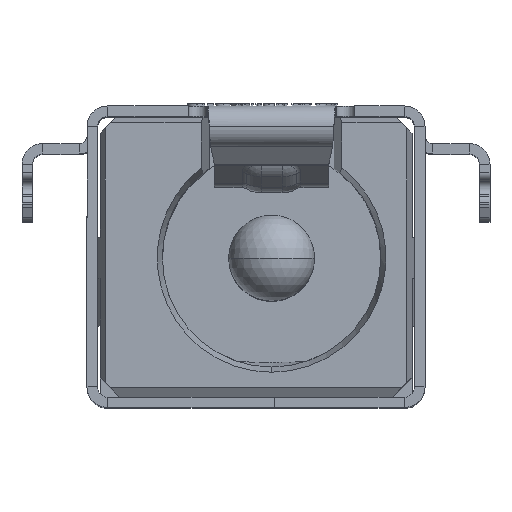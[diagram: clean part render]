
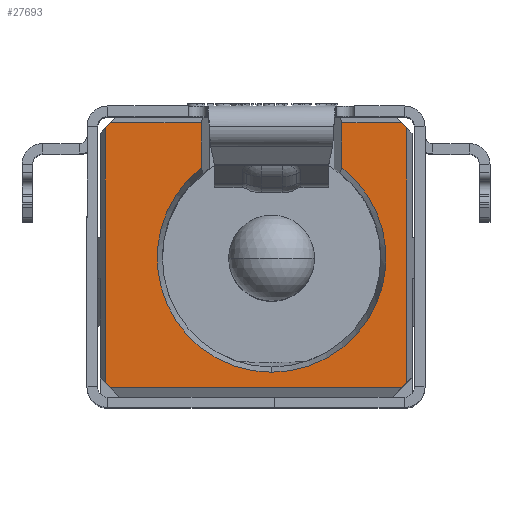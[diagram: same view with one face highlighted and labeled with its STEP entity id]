
A CAD part, top view. The second image highlights one B-rep face of the part: STEP entity #27693.
In plain terms, the highlighted planar face has unit normal (0, 0, 1).
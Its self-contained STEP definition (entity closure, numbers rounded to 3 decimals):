
#268 = CARTESIAN_POINT ( 'NONE',  ( 0., -2.2, 11. ) ) ;
#655 = ORIENTED_EDGE ( 'NONE', *, *, #29486, .T. ) ;
#740 = DIRECTION ( 'NONE',  ( 0., 1., 0. ) ) ;
#927 = EDGE_CURVE ( 'NONE', #1394, #31072, #27553, .T. ) ;
#1357 = VERTEX_POINT ( 'NONE', #5922 ) ;
#1394 = VERTEX_POINT ( 'NONE', #28485 ) ;
#1473 = LINE ( 'NONE', #6365, #15526 ) ;
#1722 = LINE ( 'NONE', #6766, #28752 ) ;
#1933 = LINE ( 'NONE', #14423, #7406 ) ;
#2070 = EDGE_CURVE ( 'NONE', #25029, #12180, #13667, .T. ) ;
#3245 = CIRCLE ( 'NONE', #20318, 2.2 ) ;
#3382 = CARTESIAN_POINT ( 'NONE',  ( -3.2, -2.4, 11. ) ) ;
#3475 = EDGE_CURVE ( 'NONE', #20369, #25312, #6152, .T. ) ;
#3895 = CARTESIAN_POINT ( 'NONE',  ( 2.6, -2.4, 11. ) ) ;
#3990 = DIRECTION ( 'NONE',  ( 0., 0., -1. ) ) ;
#4575 = CARTESIAN_POINT ( 'NONE',  ( 2.6, -2.4, 11. ) ) ;
#5486 = LINE ( 'NONE', #30477, #17560 ) ;
#5867 = DIRECTION ( 'NONE',  ( 0.614, 0.79, 0. ) ) ;
#5922 = CARTESIAN_POINT ( 'NONE',  ( 2.5, 2.6, 11. ) ) ;
#6152 = LINE ( 'NONE', #8873, #15695 ) ;
#6365 = CARTESIAN_POINT ( 'NONE',  ( 2.5, 2.6, 11. ) ) ;
#6559 = CARTESIAN_POINT ( 'NONE',  ( 2.6, -2.4, 11. ) ) ;
#6766 = CARTESIAN_POINT ( 'NONE',  ( -3.2, 2.5, 11. ) ) ;
#6771 = EDGE_CURVE ( 'NONE', #25029, #31072, #26824, .T. ) ;
#6965 = CARTESIAN_POINT ( 'NONE',  ( 0., 0., 11. ) ) ;
#6967 = DIRECTION ( 'NONE',  ( 0., 0., -1. ) ) ;
#7286 = PLANE ( 'NONE',  #19071 ) ;
#7330 = VERTEX_POINT ( 'NONE', #3382 ) ;
#7406 = VECTOR ( 'NONE', #24014, 1000. ) ;
#8032 = VERTEX_POINT ( 'NONE', #13150 ) ;
#8449 = CARTESIAN_POINT ( 'NONE',  ( 1.35, 2.6, 11. ) ) ;
#8569 = LINE ( 'NONE', #30974, #23070 ) ;
#8709 = AXIS2_PLACEMENT_3D ( 'NONE', #19252, #6967, #16842 ) ;
#8873 = CARTESIAN_POINT ( 'NONE',  ( -1.35, 2.6, 11. ) ) ;
#9550 = EDGE_CURVE ( 'NONE', #17579, #23077, #3245, .T. ) ;
#10462 = EDGE_CURVE ( 'NONE', #7330, #1394, #8569, .T. ) ;
#10678 = DIRECTION ( 'NONE',  ( 0.707, -0.707, 0. ) ) ;
#11765 = CARTESIAN_POINT ( 'NONE',  ( 1.35, 1.737, 11. ) ) ;
#11955 = DIRECTION ( 'NONE',  ( 0., 0., 1. ) ) ;
#12180 = VERTEX_POINT ( 'NONE', #18805 ) ;
#12438 = VECTOR ( 'NONE', #15891, 1000. ) ;
#12541 = VECTOR ( 'NONE', #27671, 1000. ) ;
#13150 = CARTESIAN_POINT ( 'NONE',  ( -3.2, 2.5, 11. ) ) ;
#13210 = VERTEX_POINT ( 'NONE', #8449 ) ;
#13667 = LINE ( 'NONE', #6559, #23023 ) ;
#14423 = CARTESIAN_POINT ( 'NONE',  ( -3.2, 2.5, 11. ) ) ;
#15193 = CARTESIAN_POINT ( 'NONE',  ( -3.1, -2.5, 11. ) ) ;
#15330 = CARTESIAN_POINT ( 'NONE',  ( -1.35, 2.6, 11. ) ) ;
#15481 = ORIENTED_EDGE ( 'NONE', *, *, #29248, .T. ) ;
#15526 = VECTOR ( 'NONE', #23559, 1000. ) ;
#15695 = VECTOR ( 'NONE', #21050, 1000. ) ;
#15891 = DIRECTION ( 'NONE',  ( 0., -1., 0. ) ) ;
#15951 = CIRCLE ( 'NONE', #8709, 2.2 ) ;
#15962 = ORIENTED_EDGE ( 'NONE', *, *, #20782, .F. ) ;
#16303 = CARTESIAN_POINT ( 'NONE',  ( 0., 0., 11. ) ) ;
#16441 = ORIENTED_EDGE ( 'NONE', *, *, #927, .T. ) ;
#16842 = DIRECTION ( 'NONE',  ( 0.614, 0.79, 0. ) ) ;
#17560 = VECTOR ( 'NONE', #18250, 1000. ) ;
#17579 = VERTEX_POINT ( 'NONE', #268 ) ;
#17722 = LINE ( 'NONE', #24905, #12541 ) ;
#17791 = ORIENTED_EDGE ( 'NONE', *, *, #17922, .T. ) ;
#17922 = EDGE_CURVE ( 'NONE', #12180, #1357, #17722, .T. ) ;
#18118 = ORIENTED_EDGE ( 'NONE', *, *, #28596, .F. ) ;
#18250 = DIRECTION ( 'NONE',  ( 0., -1., 0. ) ) ;
#18414 = EDGE_CURVE ( 'NONE', #8032, #7330, #1933, .T. ) ;
#18805 = CARTESIAN_POINT ( 'NONE',  ( 2.6, 2.5, 11. ) ) ;
#18990 = DIRECTION ( 'NONE',  ( -0.707, -0.707, 0. ) ) ;
#19071 = AXIS2_PLACEMENT_3D ( 'NONE', #6965, #11955, #19573 ) ;
#19215 = DIRECTION ( 'NONE',  ( 0.707, 0.707, 0. ) ) ;
#19252 = CARTESIAN_POINT ( 'NONE',  ( 0., 0., 11. ) ) ;
#19573 = DIRECTION ( 'NONE',  ( 1., 0., 0. ) ) ;
#20318 = AXIS2_PLACEMENT_3D ( 'NONE', #16303, #3990, #5867 ) ;
#20369 = VERTEX_POINT ( 'NONE', #15330 ) ;
#20597 = LINE ( 'NONE', #30528, #12438 ) ;
#20782 = EDGE_CURVE ( 'NONE', #8032, #25312, #1722, .T. ) ;
#21050 = DIRECTION ( 'NONE',  ( -1., 0., 0. ) ) ;
#21836 = VECTOR ( 'NONE', #27246, 1000. ) ;
#22061 = VERTEX_POINT ( 'NONE', #11765 ) ;
#22501 = ORIENTED_EDGE ( 'NONE', *, *, #25161, .T. ) ;
#23023 = VECTOR ( 'NONE', #740, 1000. ) ;
#23070 = VECTOR ( 'NONE', #10678, 1000. ) ;
#23077 = VERTEX_POINT ( 'NONE', #24786 ) ;
#23559 = DIRECTION ( 'NONE',  ( -1., 0., 0. ) ) ;
#24014 = DIRECTION ( 'NONE',  ( 0., -1., 0. ) ) ;
#24786 = CARTESIAN_POINT ( 'NONE',  ( -1.35, 1.737, 11. ) ) ;
#24905 = CARTESIAN_POINT ( 'NONE',  ( 2.6, 2.5, 11. ) ) ;
#25029 = VERTEX_POINT ( 'NONE', #3895 ) ;
#25161 = EDGE_CURVE ( 'NONE', #22061, #17579, #15951, .T. ) ;
#25312 = VERTEX_POINT ( 'NONE', #25938 ) ;
#25415 = ORIENTED_EDGE ( 'NONE', *, *, #6771, .F. ) ;
#25938 = CARTESIAN_POINT ( 'NONE',  ( -3.1, 2.6, 11. ) ) ;
#26473 = VECTOR ( 'NONE', #18990, 1000. ) ;
#26824 = LINE ( 'NONE', #4575, #26473 ) ;
#26900 = ORIENTED_EDGE ( 'NONE', *, *, #9550, .T. ) ;
#27075 = ORIENTED_EDGE ( 'NONE', *, *, #2070, .T. ) ;
#27246 = DIRECTION ( 'NONE',  ( 1., 0., 0. ) ) ;
#27266 = FACE_OUTER_BOUND ( 'NONE', #27853, .T. ) ;
#27553 = LINE ( 'NONE', #15193, #21836 ) ;
#27671 = DIRECTION ( 'NONE',  ( -0.707, 0.707, 0. ) ) ;
#27693 = ADVANCED_FACE ( 'NONE', ( #27266 ), #7286, .T. ) ;
#27853 = EDGE_LOOP ( 'NONE', ( #18118, #29351, #15962, #29387, #28997, #16441, #25415, #27075, #17791, #15481, #655, #22501, #26900 ) ) ;
#28485 = CARTESIAN_POINT ( 'NONE',  ( -3.1, -2.5, 11. ) ) ;
#28596 = EDGE_CURVE ( 'NONE', #20369, #23077, #5486, .T. ) ;
#28752 = VECTOR ( 'NONE', #19215, 1000. ) ;
#28997 = ORIENTED_EDGE ( 'NONE', *, *, #10462, .T. ) ;
#29248 = EDGE_CURVE ( 'NONE', #1357, #13210, #1473, .T. ) ;
#29351 = ORIENTED_EDGE ( 'NONE', *, *, #3475, .T. ) ;
#29387 = ORIENTED_EDGE ( 'NONE', *, *, #18414, .T. ) ;
#29486 = EDGE_CURVE ( 'NONE', #13210, #22061, #20597, .T. ) ;
#30477 = CARTESIAN_POINT ( 'NONE',  ( -1.35, 2.6, 11. ) ) ;
#30528 = CARTESIAN_POINT ( 'NONE',  ( 1.35, 2.6, 11. ) ) ;
#30677 = CARTESIAN_POINT ( 'NONE',  ( 2.5, -2.5, 11. ) ) ;
#30974 = CARTESIAN_POINT ( 'NONE',  ( -3.2, -2.4, 11. ) ) ;
#31072 = VERTEX_POINT ( 'NONE', #30677 ) ;
